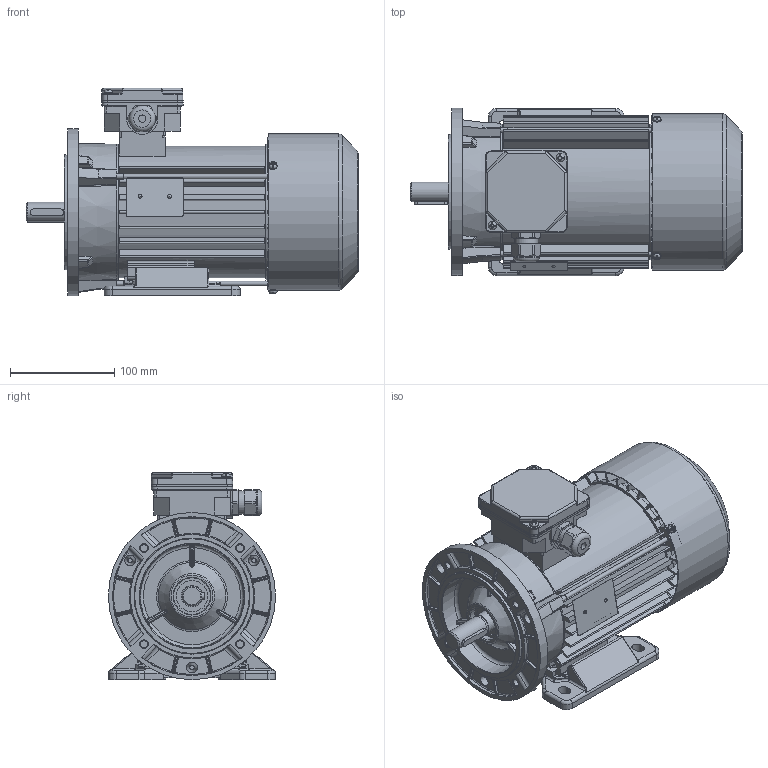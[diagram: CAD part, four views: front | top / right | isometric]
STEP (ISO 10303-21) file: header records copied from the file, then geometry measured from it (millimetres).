
FILE_DESCRIPTION(/* description */ ('Unknown'),/* implementation_level */ '2;1');
FILE_NAME(/* name */ '3SIEL80-8B1',/* time_stamp */ '2021-02-03T16:45:50+01:00',/* author */ ('Unknown'),/* organization */ ('Unknown'),/* preprocessor_version */ 'ST-DEVELOPER v16.7',/* originating_system */ 'Solid Edge',/* authorisation */ 'Unknown');
FILE_SCHEMA (('AUTOMOTIVE_DESIGN {1 0 10303 214 3 1 1}'));
Products named in the file (1): 3SIEL80-8B1
Bounding box: 317.78 x 160 x 198.5 mm (x, y, z)
Volume: 1170006.8 mm3; surface area: 612016.4 mm2
Topology: 4 solids, 4 shells, 3117 faces, 8536 edges, 5459 vertices
Faces by surface type: plane 1364, cylinder 919, bspline 388, torus 240, cone 178, sphere 28
Full cylindrical faces by diameter (mm): 2 x2, 2.4 x2, 3.7 x8, 4 x4, 4.2 x3, 4.4 x3, 4.5 x1, 4.8 x2, 5 x5, 5.1 x3, 5.5 x3, 6.5 x4, 6.8 x4, 7 x1, 8 x6, 18.598 x1, 18.998 x1, 19.298 x1, 19.498 x1, 19.898 x1, 19.948 x1, 19.998 x2, 20.4 x2, 22.3 x1, 25 x1, 25.497 x1, 25.597 x1, 25.997 x4, 28.799 x4, 30 x1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
Entity records: 125941 total; most frequent: CARTESIAN_POINT 30602, ORIENTED_EDGE 16304, DIRECTION 14718, EDGE_CURVE 8152, AXIS2_PLACEMENT_3D 5488, VERTEX_POINT 5323, LINE 3742, VECTOR 3742
